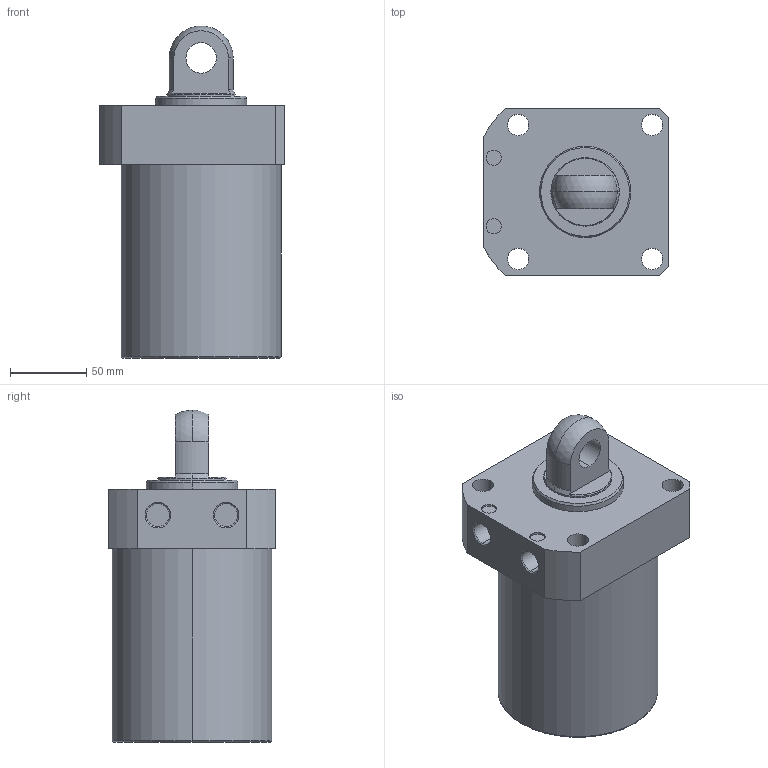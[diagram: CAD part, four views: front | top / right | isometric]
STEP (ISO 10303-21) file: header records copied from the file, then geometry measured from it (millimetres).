
FILE_DESCRIPTION (( 'STEP AP203' ), '1' );
FILE_NAME ('CLLR-105CP-080.STEP', '2019-12-18T08:01:37', ( '' ), ( '' ), 'SwSTEP 2.0', 'SolidWorks 2015', '' );
FILE_SCHEMA (( 'CONFIG_CONTROL_DESIGN' ));
Length unit declared in the file: millimetre
Products named in the file (1): CLLR-105CP-080
Bounding box: 122 x 110 x 218 mm (x, y, z)
Volume: 1625798.1 mm3; surface area: 99420 mm2
Topology: 1 solids, 1 shells, 59 faces, 139 edges, 89 vertices
Faces by surface type: cylinder 29, plane 18, cone 8, torus 2, sphere 2
Entity records: 1822 total; most frequent: DIRECTION 331, CARTESIAN_POINT 300, ORIENTED_EDGE 278, EDGE_CURVE 139, AXIS2_PLACEMENT_3D 136, VERTEX_POINT 89, CIRCLE 76, EDGE_LOOP 76
